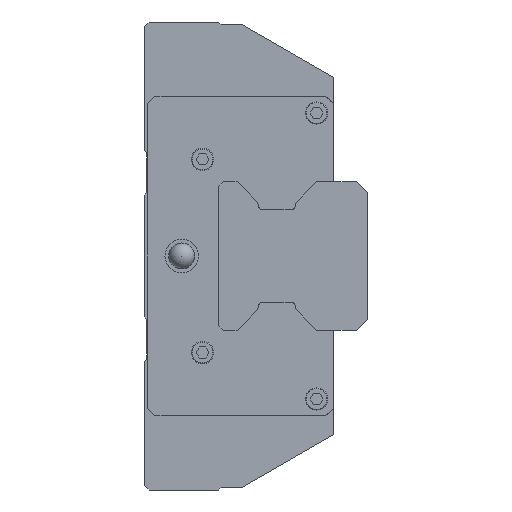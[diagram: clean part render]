
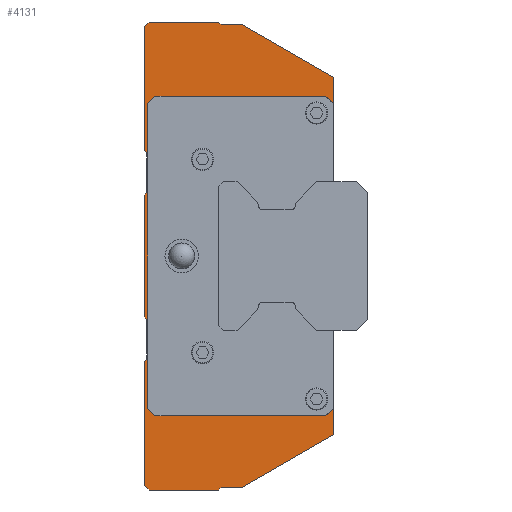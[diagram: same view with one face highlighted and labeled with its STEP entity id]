
A CAD part, left-side view. The second image highlights one B-rep face of the part: STEP entity #4131.
In plain terms, the highlighted planar face has unit normal (-1, 0, 0).
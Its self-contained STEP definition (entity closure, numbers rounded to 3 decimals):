
#726=ORIENTED_EDGE('',*,*,#1479,.T.);
#727=ORIENTED_EDGE('',*,*,#1487,.T.);
#728=ORIENTED_EDGE('',*,*,#1529,.F.);
#729=ORIENTED_EDGE('',*,*,#1652,.F.);
#730=ORIENTED_EDGE('',*,*,#1653,.F.);
#731=ORIENTED_EDGE('',*,*,#1654,.F.);
#732=ORIENTED_EDGE('',*,*,#1655,.F.);
#733=ORIENTED_EDGE('',*,*,#1656,.F.);
#734=ORIENTED_EDGE('',*,*,#1626,.F.);
#735=ORIENTED_EDGE('',*,*,#1619,.F.);
#736=ORIENTED_EDGE('',*,*,#1657,.F.);
#737=ORIENTED_EDGE('',*,*,#1658,.F.);
#738=ORIENTED_EDGE('',*,*,#1634,.F.);
#739=ORIENTED_EDGE('',*,*,#1659,.F.);
#740=ORIENTED_EDGE('',*,*,#1660,.F.);
#741=ORIENTED_EDGE('',*,*,#1617,.F.);
#742=ORIENTED_EDGE('',*,*,#1629,.F.);
#743=ORIENTED_EDGE('',*,*,#1661,.F.);
#744=ORIENTED_EDGE('',*,*,#1662,.F.);
#745=ORIENTED_EDGE('',*,*,#1663,.F.);
#746=ORIENTED_EDGE('',*,*,#1664,.F.);
#747=ORIENTED_EDGE('',*,*,#1665,.F.);
#748=ORIENTED_EDGE('',*,*,#1535,.F.);
#749=ORIENTED_EDGE('',*,*,#1491,.T.);
#750=ORIENTED_EDGE('',*,*,#1499,.T.);
#751=ORIENTED_EDGE('',*,*,#1464,.T.);
#752=ORIENTED_EDGE('',*,*,#1613,.T.);
#753=ORIENTED_EDGE('',*,*,#1468,.T.);
#1464=EDGE_CURVE('',#1978,#1977,#2366,.T.);
#1468=EDGE_CURVE('',#1982,#1981,#2370,.T.);
#1479=EDGE_CURVE('',#1981,#1990,#2380,.T.);
#1487=EDGE_CURVE('',#1990,#1995,#2388,.T.);
#1491=EDGE_CURVE('',#2000,#1999,#2392,.T.);
#1499=EDGE_CURVE('',#1999,#1978,#2399,.T.);
#1529=EDGE_CURVE('',#2028,#1995,#2427,.T.);
#1535=EDGE_CURVE('',#2000,#2032,#2433,.T.);
#1613=EDGE_CURVE('',#1977,#1982,#2501,.T.);
#1617=EDGE_CURVE('',#2083,#2081,#2505,.T.);
#1619=EDGE_CURVE('',#2084,#2086,#2507,.T.);
#1626=EDGE_CURVE('',#2086,#2091,#2512,.T.);
#1629=EDGE_CURVE('',#2094,#2083,#2513,.T.);
#1634=EDGE_CURVE('',#2098,#2099,#2516,.T.);
#1652=EDGE_CURVE('',#2112,#2028,#2534,.T.);
#1653=EDGE_CURVE('',#2113,#2112,#2535,.T.);
#1654=EDGE_CURVE('',#2114,#2113,#2536,.T.);
#1655=EDGE_CURVE('',#2115,#2114,#2537,.T.);
#1656=EDGE_CURVE('',#2091,#2115,#2538,.T.);
#1657=EDGE_CURVE('',#2116,#2084,#2539,.T.);
#1658=EDGE_CURVE('',#2099,#2116,#2540,.T.);
#1659=EDGE_CURVE('',#2117,#2098,#2541,.T.);
#1660=EDGE_CURVE('',#2081,#2117,#2542,.T.);
#1661=EDGE_CURVE('',#2118,#2094,#2543,.T.);
#1662=EDGE_CURVE('',#2119,#2118,#2544,.T.);
#1663=EDGE_CURVE('',#2120,#2119,#2545,.T.);
#1664=EDGE_CURVE('',#2121,#2120,#2546,.T.);
#1665=EDGE_CURVE('',#2032,#2121,#2547,.T.);
#1977=VERTEX_POINT('',#6176);
#1978=VERTEX_POINT('',#6178);
#1981=VERTEX_POINT('',#6185);
#1982=VERTEX_POINT('',#6187);
#1990=VERTEX_POINT('',#6207);
#1995=VERTEX_POINT('',#6222);
#1999=VERTEX_POINT('',#6231);
#2000=VERTEX_POINT('',#6233);
#2028=VERTEX_POINT('',#6307);
#2032=VERTEX_POINT('',#6319);
#2081=VERTEX_POINT('',#6472);
#2083=VERTEX_POINT('',#6476);
#2084=VERTEX_POINT('',#6480);
#2086=VERTEX_POINT('',#6483);
#2091=VERTEX_POINT('',#6494);
#2094=VERTEX_POINT('',#6503);
#2098=VERTEX_POINT('',#6513);
#2099=VERTEX_POINT('',#6514);
#2112=VERTEX_POINT('',#6547);
#2113=VERTEX_POINT('',#6549);
#2114=VERTEX_POINT('',#6551);
#2115=VERTEX_POINT('',#6553);
#2116=VERTEX_POINT('',#6556);
#2117=VERTEX_POINT('',#6559);
#2118=VERTEX_POINT('',#6562);
#2119=VERTEX_POINT('',#6564);
#2120=VERTEX_POINT('',#6566);
#2121=VERTEX_POINT('',#6568);
#2366=LINE('',#6177,#2812);
#2370=LINE('',#6186,#2816);
#2380=LINE('',#6208,#2826);
#2388=LINE('',#6223,#2834);
#2392=LINE('',#6232,#2838);
#2399=LINE('',#6246,#2845);
#2427=LINE('',#6308,#2873);
#2433=LINE('',#6318,#2879);
#2501=LINE('',#6468,#2947);
#2505=LINE('',#6477,#2951);
#2507=LINE('',#6482,#2953);
#2512=LINE('',#6496,#2958);
#2513=LINE('',#6502,#2959);
#2516=LINE('',#6512,#2962);
#2534=LINE('',#6546,#2980);
#2535=LINE('',#6548,#2981);
#2536=LINE('',#6550,#2982);
#2537=LINE('',#6552,#2983);
#2538=LINE('',#6554,#2984);
#2539=LINE('',#6555,#2985);
#2540=LINE('',#6557,#2986);
#2541=LINE('',#6558,#2987);
#2542=LINE('',#6560,#2988);
#2543=LINE('',#6561,#2989);
#2544=LINE('',#6563,#2990);
#2545=LINE('',#6565,#2991);
#2546=LINE('',#6567,#2992);
#2547=LINE('',#6569,#2993);
#2812=VECTOR('',#4994,1000.);
#2816=VECTOR('',#5000,1000.);
#2826=VECTOR('',#5016,1000.);
#2834=VECTOR('',#5028,1000.);
#2838=VECTOR('',#5034,1000.);
#2845=VECTOR('',#5047,1000.);
#2873=VECTOR('',#5093,1000.);
#2879=VECTOR('',#5101,1000.);
#2947=VECTOR('',#5237,1000.);
#2951=VECTOR('',#5243,1000.);
#2953=VECTOR('',#5247,1000.);
#2958=VECTOR('',#5258,1000.);
#2959=VECTOR('',#5265,1000.);
#2962=VECTOR('',#5274,1000.);
#2980=VECTOR('',#5296,1000.);
#2981=VECTOR('',#5297,1000.);
#2982=VECTOR('',#5298,1000.);
#2983=VECTOR('',#5299,1000.);
#2984=VECTOR('',#5300,1000.);
#2985=VECTOR('',#5301,1000.);
#2986=VECTOR('',#5302,1000.);
#2987=VECTOR('',#5303,1000.);
#2988=VECTOR('',#5304,1000.);
#2989=VECTOR('',#5305,1000.);
#2990=VECTOR('',#5306,1000.);
#2991=VECTOR('',#5307,1000.);
#2992=VECTOR('',#5308,1000.);
#2993=VECTOR('',#5309,1000.);
#3290=EDGE_LOOP('',(#726,#727,#728,#729,#730,#731,#732,#733,#734,#735,#736,
#737,#738,#739,#740,#741,#742,#743,#744,#745,#746,#747,#748,#749,#750,#751,
#752,#753));
#3640=FACE_BOUND('',#3290,.T.);
#3921=PLANE('',#4477);
#4131=ADVANCED_FACE('',(#3640),#3921,.F.);
#4477=AXIS2_PLACEMENT_3D('',#6545,#5294,#5295);
#4994=DIRECTION('',(0.,0.707,0.707));
#5000=DIRECTION('',(0.,-0.707,0.707));
#5016=DIRECTION('',(0.,-1.,0.));
#5028=DIRECTION('',(0.,-0.707,-0.707));
#5034=DIRECTION('',(0.,0.707,-0.707));
#5047=DIRECTION('',(0.,1.,0.));
#5093=DIRECTION('',(0.,0.,-1.));
#5101=DIRECTION('',(0.,0.,-1.));
#5237=DIRECTION('',(0.,0.,1.));
#5243=DIRECTION('',(0.,-0.707,0.707));
#5247=DIRECTION('',(0.,0.707,0.707));
#5258=DIRECTION('',(0.,0.,1.));
#5265=DIRECTION('',(0.,0.,1.));
#5274=DIRECTION('',(0.,0.,1.));
#5294=DIRECTION('',(1.,0.,0.));
#5295=DIRECTION('',(0.,0.,-1.));
#5296=DIRECTION('',(0.,-0.866,-0.5));
#5297=DIRECTION('',(0.,-1.,0.));
#5298=DIRECTION('',(0.,-0.707,-0.707));
#5299=DIRECTION('',(0.,-1.,0.));
#5300=DIRECTION('',(0.,-0.707,0.707));
#5301=DIRECTION('',(0.,0.,1.));
#5302=DIRECTION('',(0.,-0.707,0.707));
#5303=DIRECTION('',(0.,0.707,0.707));
#5304=DIRECTION('',(0.,0.,1.));
#5305=DIRECTION('',(0.,0.707,0.707));
#5306=DIRECTION('',(0.,1.,0.));
#5307=DIRECTION('',(0.,0.707,-0.707));
#5308=DIRECTION('',(0.,1.,0.));
#5309=DIRECTION('',(0.,0.866,-0.5));
#6176=CARTESIAN_POINT('',(-29.,25.,-20.5));
#6177=CARTESIAN_POINT('',(-29.,24.,-21.5));
#6178=CARTESIAN_POINT('',(-29.,24.,-21.5));
#6185=CARTESIAN_POINT('',(-29.,24.,21.5));
#6186=CARTESIAN_POINT('',(-29.,25.,20.5));
#6187=CARTESIAN_POINT('',(-29.,25.,20.5));
#6207=CARTESIAN_POINT('',(-29.,1.,21.5));
#6208=CARTESIAN_POINT('',(-29.,24.,21.5));
#6222=CARTESIAN_POINT('',(-29.,0.,20.5));
#6223=CARTESIAN_POINT('',(-29.,1.,21.5));
#6231=CARTESIAN_POINT('',(-29.,1.,-21.5));
#6232=CARTESIAN_POINT('',(-29.,0.,-20.5));
#6233=CARTESIAN_POINT('',(-29.,0.,-20.5));
#6246=CARTESIAN_POINT('',(-29.,1.,-21.5));
#6307=CARTESIAN_POINT('',(-29.,0.,24.041));
#6308=CARTESIAN_POINT('',(-29.,0.,20.425));
#6318=CARTESIAN_POINT('',(-29.,0.,20.425));
#6319=CARTESIAN_POINT('',(-29.,0.,-24.041));
#6468=CARTESIAN_POINT('',(-29.,25.,-20.5));
#6472=CARTESIAN_POINT('',(-29.,25.1,-13.88));
#6476=CARTESIAN_POINT('',(-29.,25.4,-14.18));
#6477=CARTESIAN_POINT('',(-29.,25.4,-14.18));
#6480=CARTESIAN_POINT('',(-29.,25.1,13.88));
#6482=CARTESIAN_POINT('',(-29.,24.76,13.54));
#6483=CARTESIAN_POINT('',(-29.,25.4,14.18));
#6494=CARTESIAN_POINT('',(-29.,25.4,30.9));
#6496=CARTESIAN_POINT('',(-29.,25.4,14.18));
#6502=CARTESIAN_POINT('',(-29.,25.4,-20.425));
#6503=CARTESIAN_POINT('',(-29.,25.4,-30.9));
#6512=CARTESIAN_POINT('',(-29.,25.4,-6.3));
#6513=CARTESIAN_POINT('',(-29.,25.4,-8.2));
#6514=CARTESIAN_POINT('',(-29.,25.4,8.2));
#6545=CARTESIAN_POINT('',(-29.,0.,0.));
#6546=CARTESIAN_POINT('',(-29.,12.4,31.2));
#6547=CARTESIAN_POINT('',(-29.,12.4,31.2));
#6548=CARTESIAN_POINT('',(-29.,15.1,31.2));
#6549=CARTESIAN_POINT('',(-29.,15.1,31.2));
#6550=CARTESIAN_POINT('',(-29.,15.4,31.5));
#6551=CARTESIAN_POINT('',(-29.,15.4,31.5));
#6552=CARTESIAN_POINT('',(-29.,24.8,31.5));
#6553=CARTESIAN_POINT('',(-29.,24.8,31.5));
#6554=CARTESIAN_POINT('',(-29.,25.4,30.9));
#6555=CARTESIAN_POINT('',(-29.,25.1,8.5));
#6556=CARTESIAN_POINT('',(-29.,25.1,8.5));
#6557=CARTESIAN_POINT('',(-29.,25.4,8.2));
#6558=CARTESIAN_POINT('',(-29.,25.1,-8.5));
#6559=CARTESIAN_POINT('',(-29.,25.1,-8.5));
#6560=CARTESIAN_POINT('',(-29.,25.1,-18.5));
#6561=CARTESIAN_POINT('',(-29.,24.8,-31.5));
#6562=CARTESIAN_POINT('',(-29.,24.8,-31.5));
#6563=CARTESIAN_POINT('',(-29.,15.4,-31.5));
#6564=CARTESIAN_POINT('',(-29.,15.4,-31.5));
#6565=CARTESIAN_POINT('',(-29.,15.1,-31.2));
#6566=CARTESIAN_POINT('',(-29.,15.1,-31.2));
#6567=CARTESIAN_POINT('',(-29.,12.4,-31.2));
#6568=CARTESIAN_POINT('',(-29.,12.4,-31.2));
#6569=CARTESIAN_POINT('',(-29.,0.,-24.041));
